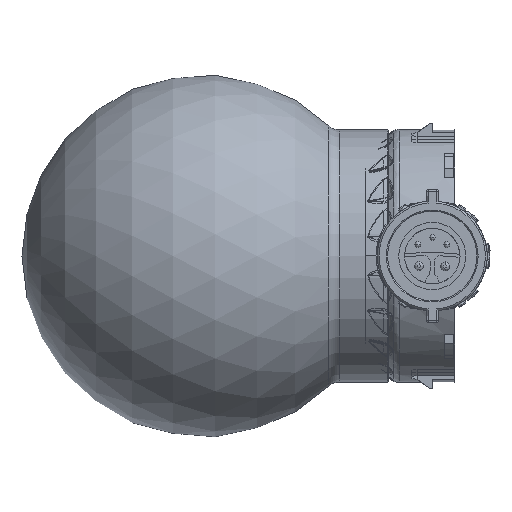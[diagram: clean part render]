
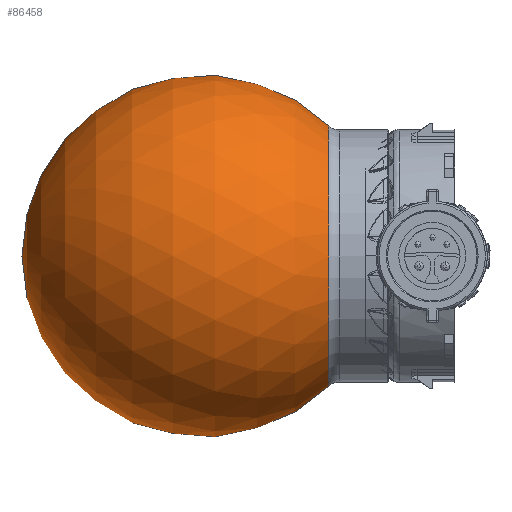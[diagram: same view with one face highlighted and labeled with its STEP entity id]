
A CAD part, left-side view. The second image highlights one B-rep face of the part: STEP entity #86458.
In plain terms, the highlighted spherical face has radius 30 mm.
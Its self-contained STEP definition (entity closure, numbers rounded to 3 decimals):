
#974 = DIRECTION ( 'NONE',  ( 0., 0., -1. ) ) ;
#4891 = AXIS2_PLACEMENT_3D ( 'NONE', #60544, #92438, #974 ) ;
#8592 = VERTEX_POINT ( 'NONE', #93917 ) ;
#11794 = ORIENTED_EDGE ( 'NONE', *, *, #47982, .F. ) ;
#14597 = DIRECTION ( 'NONE',  ( 1., 0., 0. ) ) ;
#26645 = DIRECTION ( 'NONE',  ( 0., -1., 0. ) ) ;
#37173 = DIRECTION ( 'NONE',  ( 0., 1., 0. ) ) ;
#39780 = CARTESIAN_POINT ( 'NONE',  ( 0., 20.853, -21.577 ) ) ;
#47592 = CIRCLE ( 'NONE', #81093, 21.577 ) ;
#47982 = EDGE_CURVE ( 'NONE', #8592, #67136, #47592, .T. ) ;
#50237 = FACE_BOUND ( 'NONE', #54916, .T. ) ;
#53686 = CARTESIAN_POINT ( 'NONE',  ( 0., 41.696, 0. ) ) ;
#54916 = EDGE_LOOP ( 'NONE', ( #77562, #11794 ) ) ;
#56780 = DIRECTION ( 'NONE',  ( 0., 0., -1. ) ) ;
#57785 = CARTESIAN_POINT ( 'NONE',  ( 0., 20.853, 0. ) ) ;
#60544 = CARTESIAN_POINT ( 'NONE',  ( 0., 20.853, 0. ) ) ;
#66518 = EDGE_CURVE ( 'NONE', #67136, #8592, #79943, .T. ) ;
#67136 = VERTEX_POINT ( 'NONE', #39780 ) ;
#77562 = ORIENTED_EDGE ( 'NONE', *, *, #66518, .F. ) ;
#79943 = CIRCLE ( 'NONE', #4891, 21.577 ) ;
#81093 = AXIS2_PLACEMENT_3D ( 'NONE', #57785, #26645, #56780 ) ;
#86458 = ADVANCED_FACE ( 'NONE', ( #50237 ), #97663, .T. ) ;
#92438 = DIRECTION ( 'NONE',  ( 0., -1., 0. ) ) ;
#93917 = CARTESIAN_POINT ( 'NONE',  ( 0., 20.853, 21.577 ) ) ;
#94246 = AXIS2_PLACEMENT_3D ( 'NONE', #53686, #37173, #14597 ) ;
#97663 = SPHERICAL_SURFACE ( 'NONE', #94246, 30. ) ;
